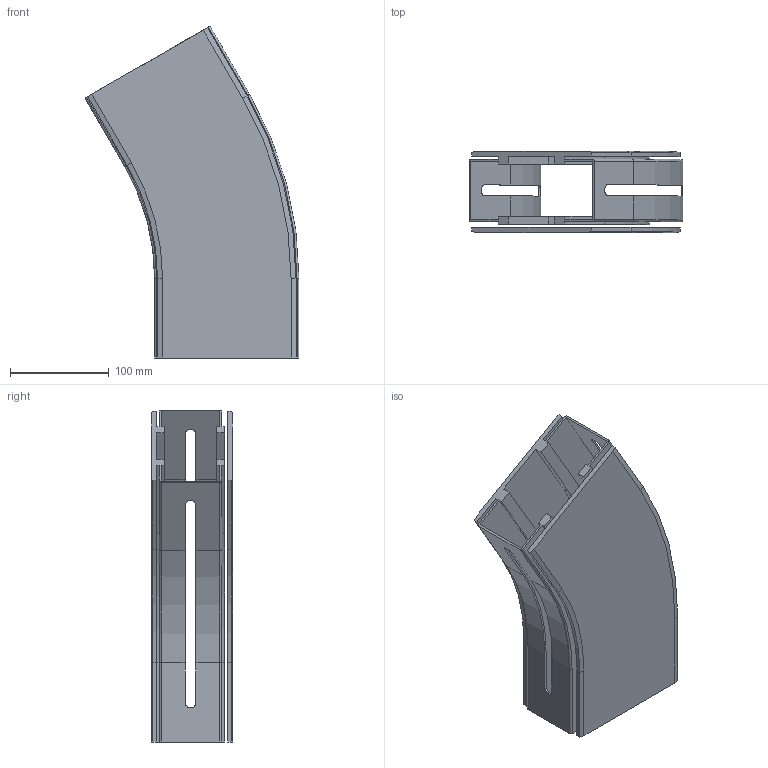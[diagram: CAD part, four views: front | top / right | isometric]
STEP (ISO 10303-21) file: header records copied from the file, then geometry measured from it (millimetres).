
FILE_DESCRIPTION((''),'2;1');
FILE_NAME('C:\Vault Klient\Projekt\Koncept konstruktion\Serie 540 Balk\540-5190.stp','2010-11-24T11:25:45',('Mathias'),(''),'Autodesk Inventor 2011','Autodesk Inventor 2011','');
FILE_SCHEMA(('AUTOMOTIVE_DESIGN { 1 0 10303 214 1 1 1 1 }'));
Length unit declared in the file: millimetre
Products named in the file (1): 540-5190
Bounding box: 216.41 x 82 x 335.78 mm (x, y, z)
Volume: 716115.6 mm3; surface area: 371716.6 mm2
Topology: 2 solids, 2 shells, 155 faces, 434 edges, 284 vertices
Faces by surface type: plane 97, cylinder 34, bspline 14, cone 6, torus 4
Entity records: 5130 total; most frequent: CARTESIAN_POINT 1068, ORIENTED_EDGE 868, DIRECTION 770, EDGE_CURVE 434, VECTOR 326, LINE 326, VERTEX_POINT 284, AXIS2_PLACEMENT_3D 222
